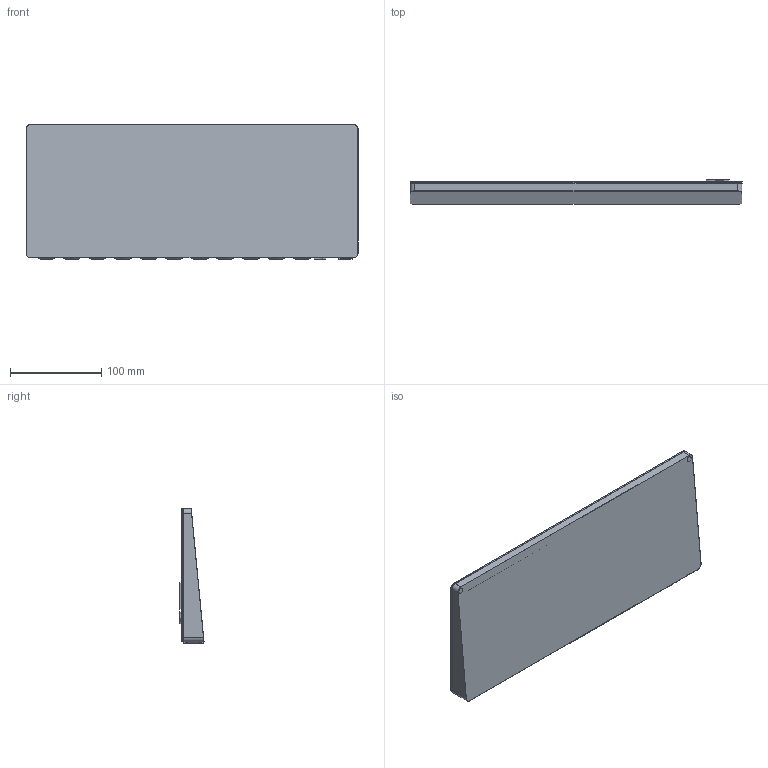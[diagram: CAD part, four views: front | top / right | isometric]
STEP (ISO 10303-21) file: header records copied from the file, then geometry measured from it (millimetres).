
FILE_DESCRIPTION(/* description */ ('STEP AP242','CAx-IF Rec.Pracs.---Representation and Presentation of Product Manufacturing Information (PMI)---4.0---2014-10-13','CAx-IF Rec.Pracs.---3D Tessellated Geometry---0.4---2014-09-14','2;1'),/* implementation_level */ '2;1');
FILE_NAME(/* name */ '689e849d3b3e5368d31ebe78',/* time_stamp */ '2025-08-15T00:51:42Z',/* author */ (''),/* organization */ (''),/* preprocessor_version */ 'ST-DEVELOPER v20',/* originating_system */ 'ONSHAPE BY PTC INC, 1.202',/* authorisation */ ' ');
FILE_SCHEMA (('AP242_MANAGED_MODEL_BASED_3D_ENGINEERING_MIM_LF { 1 0 10303 442 1 1 4 }'));
Length unit declared in the file: metre
Products named in the file (9): Assembly 1; Part 2; Part 4; Part 3; Part 7; Part 1; Part 6; Part 5
Assembly tree (8 placements, depth 2):
  Assembly 1
    Part 2
    Part 4
    Part 3
    Part 7
    Part 1
    Part 6
    Part 1
    Part 5
Bounding box: 364.02 x 26.39 x 148.29 mm (x, y, z)
Volume: 209291.8 mm3; surface area: 350746.8 mm2
Topology: 8 solids, 8 shells, 1051 faces, 2753 edges, 1822 vertices
Faces by surface type: plane 887, cylinder 160, torus 4
Full cylindrical faces by diameter (mm): 3.4 x4, 6 x8, 6.26 x4
Entity records: 37584 total; most frequent: CARTESIAN_POINT 5635, ORIENTED_EDGE 5462, DIRECTION 5123, EDGE_CURVE 2731, LINE 2443, VECTOR 2443, VERTEX_POINT 1816, EDGE_LOOP 1351
